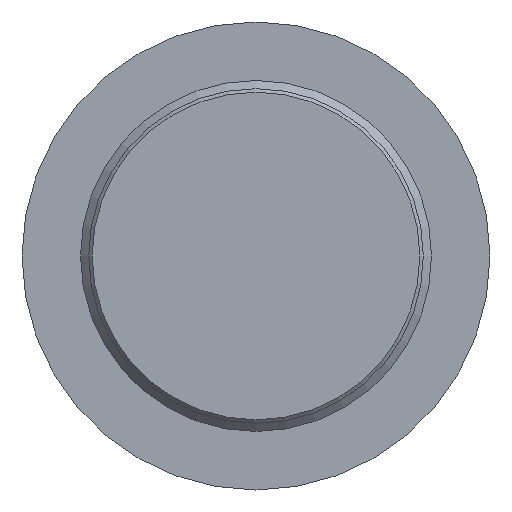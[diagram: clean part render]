
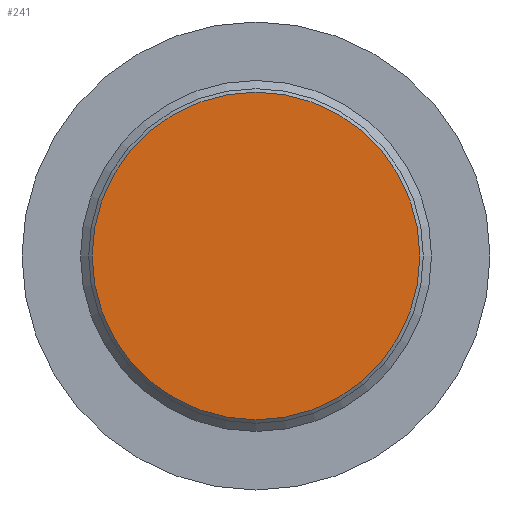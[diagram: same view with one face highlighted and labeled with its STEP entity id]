
A CAD part, front view. The second image highlights one B-rep face of the part: STEP entity #241.
In plain terms, the highlighted planar face has unit normal (0, -1, 0).
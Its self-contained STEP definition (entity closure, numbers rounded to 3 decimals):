
#26=PLANE('',#279);
#34=FACE_OUTER_BOUND('',#49,.T.);
#49=EDGE_LOOP('',(#175));
#86=CIRCLE('',#278,7.);
#112=VERTEX_POINT('',#414);
#139=EDGE_CURVE('',#112,#112,#86,.T.);
#175=ORIENTED_EDGE('',*,*,#139,.F.);
#241=ADVANCED_FACE('',(#34),#26,.T.);
#278=AXIS2_PLACEMENT_3D('',#416,#325,#326);
#279=AXIS2_PLACEMENT_3D('',#417,#327,#328);
#325=DIRECTION('center_axis',(0.,1.,0.));
#326=DIRECTION('ref_axis',(0.,0.,-1.));
#327=DIRECTION('center_axis',(0.,-1.,0.));
#328=DIRECTION('ref_axis',(0.,0.,-1.));
#414=CARTESIAN_POINT('',(0.,-1400.,7.));
#416=CARTESIAN_POINT('Origin',(0.,-1400.,0.));
#417=CARTESIAN_POINT('Origin',(0.,-1400.,7.5));
